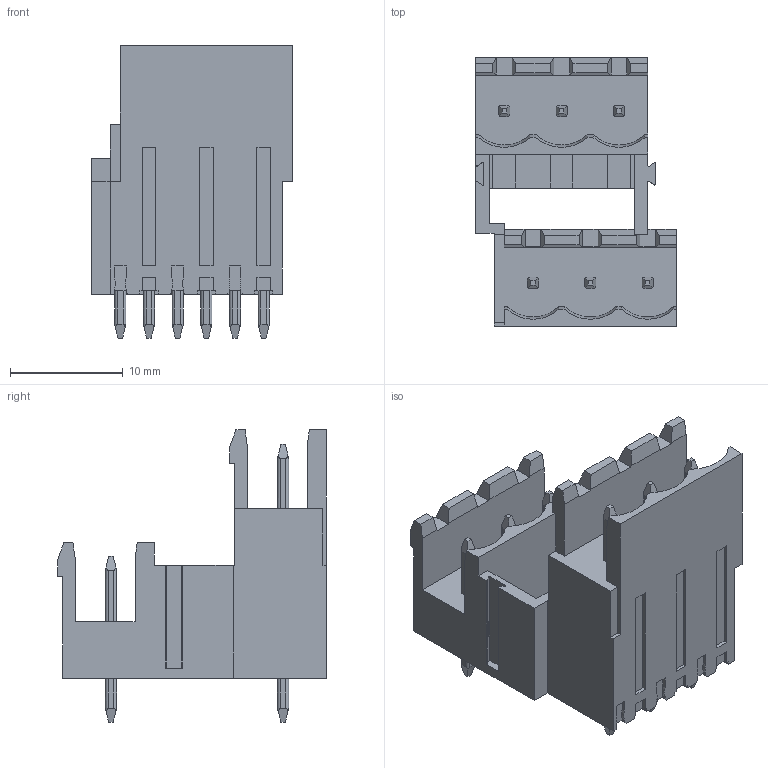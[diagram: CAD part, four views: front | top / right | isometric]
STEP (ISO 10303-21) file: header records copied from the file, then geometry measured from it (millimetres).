
FILE_DESCRIPTION((''),'2;1');
FILE_NAME('3','2019-05-09T',('zhenbing.lai'),(''),'CREO PARAMETRIC BY PTC INC, 2016260','CREO PARAMETRIC BY PTC INC, 2016260','');
FILE_SCHEMA(('CONFIG_CONTROL_DESIGN'));
Length unit declared in the file: millimetre
Products named in the file (1): 3
Bounding box: 17.78 x 23.79 x 25.9 mm (x, y, z)
Volume: 3205 mm3; surface area: 3156 mm2
Topology: 1 solids, 1 shells, 417 faces, 1201 edges, 796 vertices
Faces by surface type: plane 337, cylinder 68, cone 6, sphere 6
Entity records: 13743 total; most frequent: CARTESIAN_POINT 2868, ORIENTED_EDGE 2390, DIRECTION 2045, EDGE_CURVE 1195, VECTOR 963, LINE 963, VERTEX_POINT 796, AXIS2_PLACEMENT_3D 541
